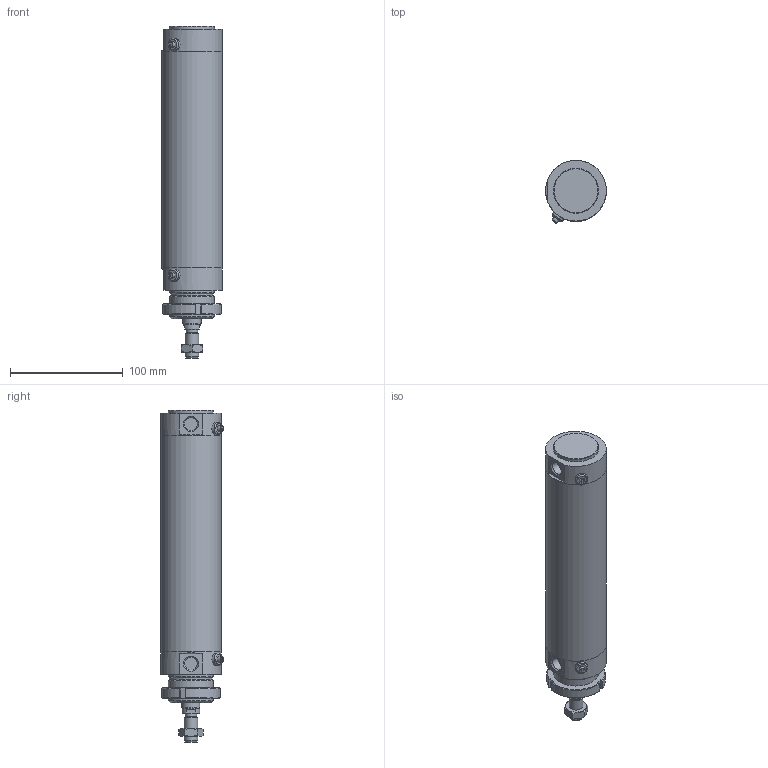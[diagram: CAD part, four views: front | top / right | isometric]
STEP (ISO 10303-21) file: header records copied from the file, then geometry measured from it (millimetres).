
FILE_DESCRIPTION(/* description */ (''),/* implementation_level */ '2;1');
FILE_NAME(/* name */ 'I:\Area Tecnica\Documenti\A-Manieri\_Inventor\12X\12X#D_###_####_#_#\12XBD_050_0150_#_#.stp',/* time_stamp */ '2015-05-04T15:12:47+02:00',/* author */ ('maniean1'),/* organization */ ('Pneumax S.p.A.'),/* preprocessor_version */ 'ST-DEVELOPER v15.2',/* originating_system */ 'Autodesk Inventor 2014',/* authorisation */ '');
FILE_SCHEMA (('AUTOMOTIVE_DESIGN { 1 0 10303 214 3 1 1 }'));
Length unit declared in the file: millimetre
Products named in the file (7): C1250_619-0150; 12X50_606; S12X50_0150; 12X_50_11; 12X50_612; G12X_050_05; 12XBD_050_0150_#_#
Bounding box: 54 x 55.88 x 295 mm (x, y, z)
Volume: 315348.3 mm3; surface area: 112397.3 mm2
Topology: 6 solids, 6 shells, 99 faces, 217 edges, 140 vertices
Faces by surface type: plane 53, cylinder 25, cone 19, torus 2
Full cylindrical faces by diameter (mm): 5 x2, 10.2 x1, 11 x2, 11.4 x2, 12 x2, 14 x1, 15.6 x1, 16 x1, 38.2 x1, 40 x4, 50 x2, 54 x3
Entity records: 2667 total; most frequent: CARTESIAN_POINT 540, DIRECTION 444, ORIENTED_EDGE 348, AXIS2_PLACEMENT_3D 188, EDGE_CURVE 174, EDGE_LOOP 152, VERTEX_POINT 132, ADVANCED_FACE 99
